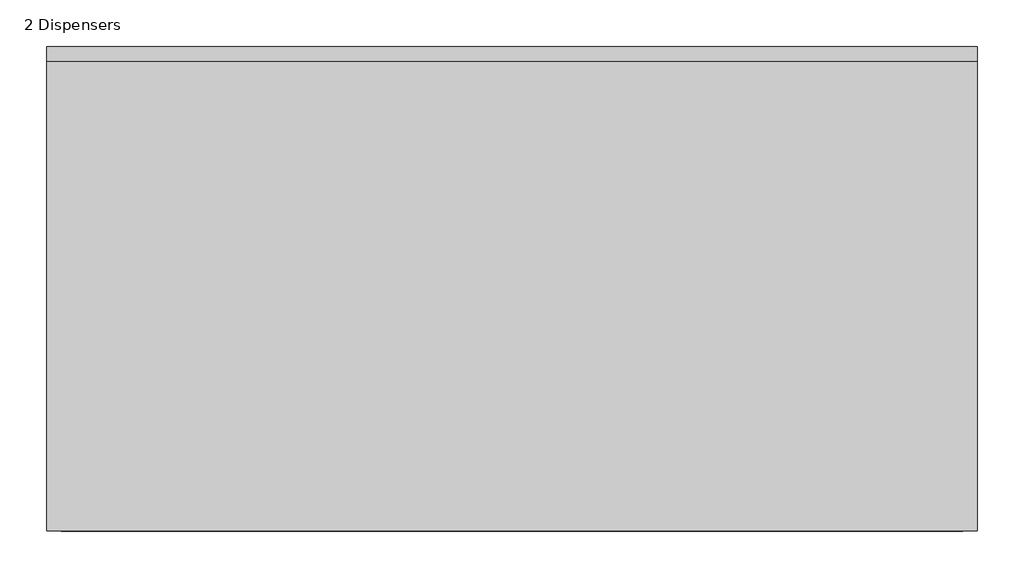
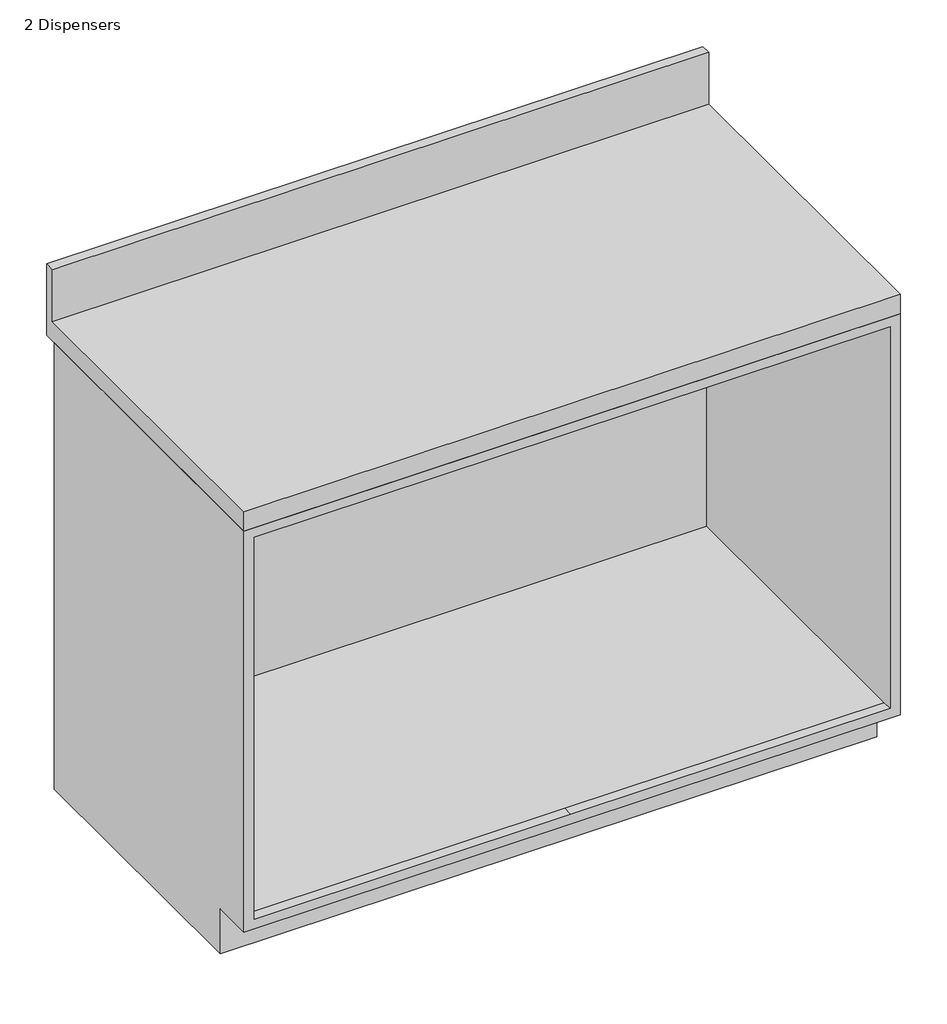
# One storey, incomplete: 2 furniture elements.
"""IFC4 building model written with IfcOpenShell, lengths in millimetres."""

from ifc_helpers import new_model, si_unit, origin, place, context, project, spatial, transform, mapped, element, save
from components import furniture_8eba6e00, furniture_bb833568

model = new_model("IFC4")

# Units and contexts
model_context = context("Model", 3, world=origin())
ifc_project = project(units=[si_unit("LENGTHUNIT", "METRE", prefix="MILLI")], contexts=[model_context])

# Site, building, storey
site = spatial("IfcSite", under=ifc_project)
building = spatial("IfcBuilding", under=site)
storey = spatial("IfcBuildingStorey", under=building, Name="2 Dispensers", Elevation=0.0)

# Furniture
placement = place(None, origin())
furniture_shape = furniture_8eba6e00(model_context)
element("IfcFurniture", 1, ObjectType="Base Cabinet-Double Door : 48\"", at=placement, inside=storey, context=model_context, shape_type="MappedRepresentation", body=[
    mapped(furniture_shape, transform((-4151.6696819, 2727.692229, 0.0), x_axis=(1.0, 0.0, 0.0), y_axis=(0.0, 1.0, 0.0), z_axis=(0.0, 0.0, 1.0))),
])
furniture_2_shape = furniture_bb833568(model_context)
element("IfcFurniture", 2, ObjectType="Counter Top : 24\" Depth", at=placement, inside=storey, context=model_context, shape_type="MappedRepresentation", body=[
    mapped(furniture_2_shape, transform((-3542.0696819, 2753.092229, 0.0), x_axis=(1.0, 0.0, 0.0), y_axis=(0.0, 1.0, 0.0), z_axis=(0.0, 0.0, 1.0))),
])

save(model, "model.ifc")
